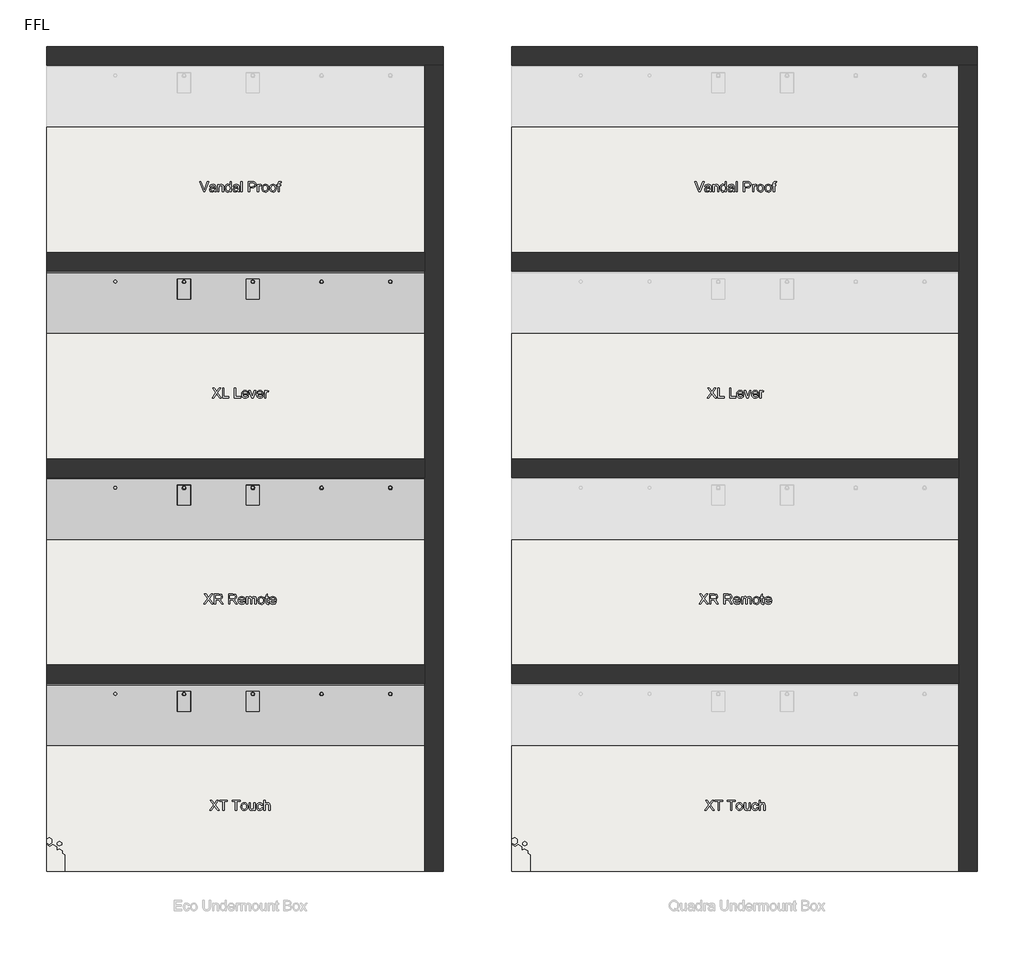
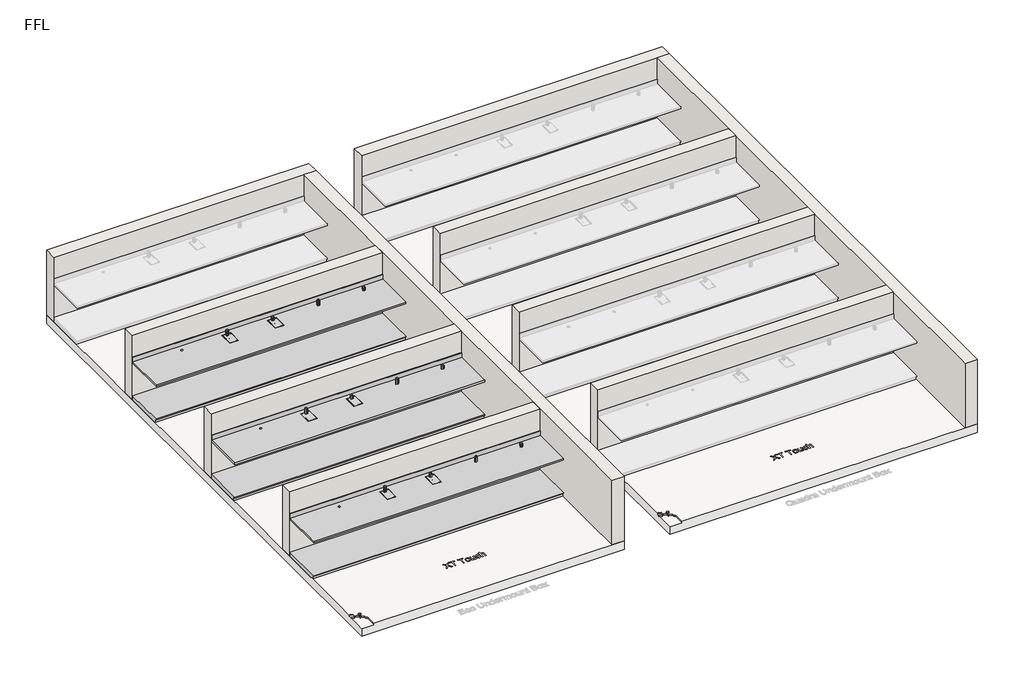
# One storey, part 1 of 5: 12 flow terminals, 10 walls, 6 furniture elements, 2 slabs.
"""IFC4 building model written with IfcOpenShell, lengths in millimetres."""

from ifc_helpers import new_model, si_unit, frame, origin, origin_with_axes, place, context, project, spatial, polyline, circle_curve, outline, extrude, faceted_brep, transform, mapped, element, save
from ifc_brep_helpers import plane_surface, revolved_surface, advanced_brep
from components import brushed_582ad824, chrome_7b1b1f62, chrome_988dec97, chrome_73782d16, generic_plinth_900mm_f33d2354

model = new_model("IFC4")

# Units and contexts
model_context = context("Model", 3, world=origin())
ifc_project = project(units=[si_unit("LENGTHUNIT", "METRE", prefix="MILLI")], contexts=[model_context])

# Site, building, storey
site = spatial("IfcSite", under=ifc_project)
building = spatial("IfcBuilding", under=site)
storey = spatial("IfcBuildingStorey", under=building, Name="FFL", Elevation=0.0)

# Flow terminals
placement = place(None, origin())
brushed_shape = brushed_582ad824(model_context)
element("IfcFlowTerminal", 1, ObjectType="z_PlumFixt_Billi_70mm Riser  : Brushed", at=placement, inside=storey, context=model_context, shape_type="MappedRepresentation", body=[
    mapped(brushed_shape, transform((12529.2647071, 10711.9893304, 900.0), x_axis=(1.0, 0.0, 0.0), y_axis=(0.0, 1.0, 0.0), z_axis=(0.0, 0.0, 1.0))),
])
element("IfcFlowTerminal", 2, ObjectType="z_PlumFixt_Billi_70mm Riser  : Brushed", at=placement, inside=storey, context=model_context, shape_type="MappedRepresentation", body=[
    mapped(brushed_shape, transform((12529.2647071, 4711.9893304, 900.0), x_axis=(1.0, 0.0, 0.0), y_axis=(0.0, 1.0, 0.0), z_axis=(0.0, 0.0, 1.0))),
])
element("IfcFlowTerminal", 3, ObjectType="z_PlumFixt_Billi_70mm Riser  : Chrome", at=placement, inside=storey, context=model_context, shape_type="MappedRepresentation", body=[
    mapped(brushed_shape, transform((12529.2647071, 7711.9893304, 900.0), x_axis=(1.0, 0.0, 0.0), y_axis=(0.0, 1.0, 0.0), z_axis=(0.0, 0.0, 1.0))),
])
chrome_shape = chrome_7b1b1f62(model_context)
element("IfcFlowTerminal", 4, ObjectType="z_PlumFixt_Billi_120mm Riser : Chrome", at=placement, inside=storey, context=model_context, shape_type="MappedRepresentation", body=[
    mapped(chrome_shape, transform((11529.2647071, 10711.9893304, 900.0), x_axis=(1.0, 0.0, 0.0), y_axis=(0.0, 1.0, 0.0), z_axis=(0.0, 0.0, 1.0))),
])
element("IfcFlowTerminal", 5, ObjectType="z_PlumFixt_Billi_120mm Riser : Chrome", at=placement, inside=storey, context=model_context, shape_type="MappedRepresentation", body=[
    mapped(chrome_shape, transform((11529.2647071, 7711.9893304, 900.0), x_axis=(1.0, 0.0, 0.0), y_axis=(0.0, 1.0, 0.0), z_axis=(0.0, 0.0, 1.0))),
])
element("IfcFlowTerminal", 6, ObjectType="z_PlumFixt_Billi_120mm Riser : Chrome", at=placement, inside=storey, context=model_context, shape_type="MappedRepresentation", body=[
    mapped(chrome_shape, transform((11529.2647071, 4711.9893304, 900.0), x_axis=(1.0, 0.0, 0.0), y_axis=(0.0, 1.0, 0.0), z_axis=(0.0, 0.0, 1.0))),
])
chrome_2_shape = chrome_988dec97(model_context)
element("IfcFlowTerminal", 7, ObjectType="z_PlumFixt_Billi_Font and 70mm Riser : Chrome", at=placement, inside=storey, context=model_context, shape_type="MappedRepresentation", body=[
    mapped(chrome_2_shape, transform((10529.2647071, 7603.3988696, 900.0), x_axis=(1.0, 0.0, 0.0), y_axis=(0.0, 1.0, 0.0), z_axis=(0.0, 0.0, 1.0))),
])
chrome_3_shape = chrome_73782d16(model_context)
element("IfcFlowTerminal", 8, ObjectType="z_PlumFixt_Billi_Font and 120mm Riser : Chrome", at=placement, inside=storey, context=model_context, shape_type="MappedRepresentation", body=[
    mapped(chrome_3_shape, transform((9529.2647071, 7603.3988696, 900.0), x_axis=(1.0, 0.0, 0.0), y_axis=(0.0, 1.0, 0.0), z_axis=(0.0, 0.0, 1.0))),
])
element("IfcFlowTerminal", 9, ObjectType="z_PlumFixt_Billi_Font and 70mm Riser : Matte Black", at=placement, inside=storey, context=model_context, shape_type="MappedRepresentation", body=[
    mapped(chrome_2_shape, transform((10529.2647071, 10603.3988696, 900.0), x_axis=(1.0, 0.0, 0.0), y_axis=(0.0, 1.0, 0.0), z_axis=(0.0, 0.0, 1.0))),
])
element("IfcFlowTerminal", 10, ObjectType="z_PlumFixt_Billi_Font and 70mm Riser : Matte Black", at=placement, inside=storey, context=model_context, shape_type="MappedRepresentation", body=[
    mapped(chrome_2_shape, transform((10529.2647071, 4603.3988696, 900.0), x_axis=(1.0, 0.0, 0.0), y_axis=(0.0, 1.0, 0.0), z_axis=(0.0, 0.0, 1.0))),
])
element("IfcFlowTerminal", 11, ObjectType="z_PlumFixt_Billi_Font and 120mm Riser : Matte White", at=placement, inside=storey, context=model_context, shape_type="MappedRepresentation", body=[
    mapped(chrome_3_shape, transform((9529.2647071, 10603.3988696, 900.0), x_axis=(1.0, 0.0, 0.0), y_axis=(0.0, 1.0, 0.0), z_axis=(0.0, 0.0, 1.0))),
])
element("IfcFlowTerminal", 12, ObjectType="z_PlumFixt_Billi_Font and 120mm Riser : Matte White", at=placement, inside=storey, context=model_context, shape_type="MappedRepresentation", body=[
    mapped(chrome_3_shape, transform((9529.2647071, 4603.3988696, 900.0), x_axis=(1.0, 0.0, 0.0), y_axis=(0.0, 1.0, 0.0), z_axis=(0.0, 0.0, 1.0))),
])

# Furniture
element("IfcFurniture", 13, ObjectType="Counter Top : 900mm Depth", at=placement, inside=storey, context=model_context, shape_type="AdvancedBrep", body=[
    advanced_brep(
    [(7530.2647071, 9948.2393304, 900.0), (13030.2647071, 9948.2393304, 900.0), (13030.2647071, 10829.1893304, 900.0), (7530.2647071, 10829.1893304, 900.0), (8530.2647071, 10718.2393304, 900.0), (8530.2647071, 10678.2393304, 900.0), (9625.7647071, 10444.1488696, 900.0), (9434.7647071, 10444.1488696, 900.0), (9434.7647071, 10735.1488696, 900.0), (9625.7647071, 10735.1488696, 900.0), (10625.7647071, 10444.1488696, 900.0), (10434.7647071, 10444.1488696, 900.0), (10434.7647071, 10735.1488696, 900.0), (10625.7647071, 10735.1488696, 900.0), (11530.2647071, 10718.2393304, 900.0), (11530.2647071, 10678.2393304, 900.0), (12530.2647071, 10718.2393304, 900.0), (12530.2647071, 10678.2393304, 900.0), (13030.2647071, 10848.2393304, 860.0), (13030.2647071, 9948.2393304, 860.0), (7530.2647071, 9948.2393304, 860.0), (7530.2647071, 10848.2393304, 860.0), (8530.2647071, 10678.2393304, 860.0), (8530.2647071, 10718.2393304, 860.0), (9443.2647071, 10452.6488696, 860.0), (9617.2647071, 10452.6488696, 860.0), (9617.2647071, 10726.6488696, 860.0), (9443.2647071, 10726.6488696, 860.0), (10443.2647071, 10452.6488696, 860.0), (10617.2647071, 10452.6488696, 860.0), (10617.2647071, 10726.6488696, 860.0), (10443.2647071, 10726.6488696, 860.0), (11530.2647071, 10678.2393304, 860.0), (11530.2647071, 10718.2393304, 860.0), (12530.2647071, 10678.2393304, 860.0), (12530.2647071, 10718.2393304, 860.0), (7530.2647071, 10848.2393304, 1001.6), (13030.2647071, 10848.2393304, 1001.6), (7530.2647071, 10829.1893304, 1001.6), (13030.2647071, 10829.1893304, 1001.6), (9625.7647071, 10444.1488696, 894.5), (9434.7647071, 10444.1488696, 894.5), (9443.2647071, 10452.6488696, 894.5), (9617.2647071, 10452.6488696, 894.5), (9625.7647071, 10735.1488696, 894.5), (9617.2647071, 10726.6488696, 894.5), (9434.7647071, 10735.1488696, 894.5), (9443.2647071, 10726.6488696, 894.5), (10625.7647071, 10444.1488696, 894.5), (10434.7647071, 10444.1488696, 894.5), (10443.2647071, 10452.6488696, 894.5), (10617.2647071, 10452.6488696, 894.5), (10625.7647071, 10735.1488696, 894.5), (10617.2647071, 10726.6488696, 894.5), (10434.7647071, 10735.1488696, 894.5), (10443.2647071, 10726.6488696, 894.5)],
    [
        (0, 1),
        (1, 2),
        (2, 3),
        (3, 0),
        (4, 5, circle_curve(frame((8530.2647071, 10698.2393304, 900.0), z_axis=(0.0, 0.0, -1.0), x_axis=(0.0, 1.0, 0.0)), 20.0)),
        (5, 4, circle_curve(frame((8530.2647071, 10698.2393304, 900.0), z_axis=(0.0, 0.0, -1.0), x_axis=(0.0, 1.0, 0.0)), 20.0)),
        (6, 7),
        (7, 8),
        (8, 9),
        (9, 6),
        (10, 11),
        (11, 12),
        (12, 13),
        (13, 10),
        (14, 15, circle_curve(frame((11530.2647071, 10698.2393304, 900.0), z_axis=(0.0, 0.0, -1.0), x_axis=(0.0, 1.0, 0.0)), 20.0)),
        (15, 14, circle_curve(frame((11530.2647071, 10698.2393304, 900.0), z_axis=(0.0, 0.0, -1.0), x_axis=(0.0, 1.0, 0.0)), 20.0)),
        (16, 17, circle_curve(frame((12530.2647071, 10698.2393304, 900.0), z_axis=(0.0, 0.0, -1.0), x_axis=(0.0, 1.0, 0.0)), 20.0)),
        (17, 16, circle_curve(frame((12530.2647071, 10698.2393304, 900.0), z_axis=(0.0, 0.0, -1.0), x_axis=(0.0, 1.0, 0.0)), 20.0)),
        (18, 19),
        (19, 20),
        (20, 21),
        (21, 18),
        (22, 23, circle_curve(frame((8530.2647071, 10698.2393304, 860.0), z_axis=(0.0, 0.0, 1.0), x_axis=(0.0, 1.0, 0.0)), 20.0)),
        (23, 22, circle_curve(frame((8530.2647071, 10698.2393304, 860.0), z_axis=(0.0, 0.0, 1.0), x_axis=(0.0, 1.0, 0.0)), 20.0)),
        (24, 25),
        (25, 26),
        (26, 27),
        (27, 24),
        (28, 29),
        (29, 30),
        (30, 31),
        (31, 28),
        (32, 33, circle_curve(frame((11530.2647071, 10698.2393304, 860.0), z_axis=(0.0, 0.0, 1.0), x_axis=(0.0, 1.0, 0.0)), 20.0)),
        (33, 32, circle_curve(frame((11530.2647071, 10698.2393304, 860.0), z_axis=(0.0, 0.0, 1.0), x_axis=(0.0, 1.0, 0.0)), 20.0)),
        (34, 35, circle_curve(frame((12530.2647071, 10698.2393304, 860.0), z_axis=(0.0, 0.0, 1.0), x_axis=(0.0, 1.0, 0.0)), 20.0)),
        (35, 34, circle_curve(frame((12530.2647071, 10698.2393304, 860.0), z_axis=(0.0, 0.0, 1.0), x_axis=(0.0, 1.0, 0.0)), 20.0)),
        (21, 36),
        (36, 37),
        (37, 18),
        (3, 38),
        (38, 36),
        (20, 0),
        (19, 1),
        (37, 39),
        (39, 2),
        (38, 39),
        (22, 5),
        (4, 23),
        (6, 40),
        (40, 41),
        (41, 7),
        (42, 43),
        (43, 25),
        (24, 42),
        (9, 44),
        (44, 40),
        (43, 45),
        (45, 26),
        (8, 46),
        (46, 44),
        (45, 47),
        (47, 27),
        (41, 46),
        (47, 42),
        (10, 48),
        (48, 49),
        (49, 11),
        (50, 51),
        (51, 29),
        (28, 50),
        (13, 52),
        (52, 48),
        (51, 53),
        (53, 30),
        (12, 54),
        (54, 52),
        (53, 55),
        (55, 31),
        (49, 54),
        (55, 50),
        (32, 15),
        (14, 33),
        (34, 17),
        (16, 35),
    ],
    [
        plane_surface(frame((7530.2647071, 10848.2393304, 900.0), z_axis=(0.0, 0.0, 1.0), x_axis=(-1.0, 0.0, 0.0))),
        plane_surface(frame((7530.2647071, 10848.2393304, 860.0), z_axis=(0.0, 0.0, -1.0), x_axis=(1.0, 0.0, 0.0))),
        plane_surface(frame((13030.2647071, 10848.2393304, 900.0), z_axis=(0.0, 1.0, 0.0), x_axis=(0.0, 0.0, -1.0))),
        plane_surface(frame((7530.2647071, 10848.2393304, 900.0), z_axis=(-1.0, 0.0, 0.0), x_axis=(0.0, 0.0, -1.0))),
        plane_surface(frame((7530.2647071, 9948.2393304, 900.0), z_axis=(0.0, -1.0, 0.0), x_axis=(0.0, 0.0, -1.0))),
        plane_surface(frame((13030.2647071, 9948.2393304, 900.0), z_axis=(1.0, 0.0, 0.0), x_axis=(0.0, 0.0, -1.0))),
        plane_surface(frame((7530.2647071, 10848.2393304, 1001.6), z_axis=(0.0, 0.0, 1.0), x_axis=(0.0, -1.0, 0.0))),
        plane_surface(frame((7530.2647071, 10829.1893304, 1001.6), z_axis=(0.0, -1.0, 0.0), x_axis=(0.0, 0.0, -1.0))),
        revolved_surface(polyline([(8530.2647071, 10718.2393304, 900.0), (8530.2647071, 10718.2393304, 860.0)]), (8530.2647071, 10698.2393304, 800.0), (0.0, 0.0, 1.0)),
        plane_surface(frame((9434.7647071, 10444.1488696, 894.5), z_axis=(0.0, 1.0, 0.0), x_axis=(1.0, 0.0, 0.0))),
        plane_surface(frame((9443.2647071, 10452.6488696, 800.0), z_axis=(0.0, 1.0, 0.0), x_axis=(1.0, 0.0, 0.0))),
        plane_surface(frame((9625.7647071, 10444.1488696, 894.5), z_axis=(-1.0, 0.0, 0.0), x_axis=(0.0, 1.0, 0.0))),
        plane_surface(frame((9617.2647071, 10452.6488696, 800.0), z_axis=(-1.0, 0.0, 0.0), x_axis=(0.0, 1.0, 0.0))),
        plane_surface(frame((9625.7647071, 10735.1488696, 894.5), z_axis=(0.0, -1.0, 0.0), x_axis=(-1.0, 0.0, 0.0))),
        plane_surface(frame((9617.2647071, 10726.6488696, 800.0), z_axis=(0.0, -1.0, 0.0), x_axis=(-1.0, 0.0, 0.0))),
        plane_surface(frame((9434.7647071, 10735.1488696, 894.5), z_axis=(1.0, 0.0, 0.0), x_axis=(0.0, -1.0, 0.0))),
        plane_surface(frame((9443.2647071, 10726.6488696, 800.0), z_axis=(1.0, 0.0, 0.0), x_axis=(0.0, -1.0, 0.0))),
        plane_surface(frame((9443.2647071, 10726.6488696, 894.5), z_axis=(0.0, 0.0, 1.0), x_axis=(0.0, -1.0, 0.0))),
        plane_surface(frame((10434.7647071, 10444.1488696, 894.5), z_axis=(0.0, 1.0, 0.0), x_axis=(1.0, 0.0, 0.0))),
        plane_surface(frame((10443.2647071, 10452.6488696, 800.0), z_axis=(0.0, 1.0, 0.0), x_axis=(1.0, 0.0, 0.0))),
        plane_surface(frame((10625.7647071, 10444.1488696, 894.5), z_axis=(-1.0, 0.0, 0.0), x_axis=(0.0, 1.0, 0.0))),
        plane_surface(frame((10617.2647071, 10452.6488696, 800.0), z_axis=(-1.0, 0.0, 0.0), x_axis=(0.0, 1.0, 0.0))),
        plane_surface(frame((10625.7647071, 10735.1488696, 894.5), z_axis=(0.0, -1.0, 0.0), x_axis=(-1.0, 0.0, 0.0))),
        plane_surface(frame((10617.2647071, 10726.6488696, 800.0), z_axis=(0.0, -1.0, 0.0), x_axis=(-1.0, 0.0, 0.0))),
        plane_surface(frame((10434.7647071, 10735.1488696, 894.5), z_axis=(1.0, 0.0, 0.0), x_axis=(0.0, -1.0, 0.0))),
        plane_surface(frame((10443.2647071, 10726.6488696, 800.0), z_axis=(1.0, 0.0, 0.0), x_axis=(0.0, -1.0, 0.0))),
        plane_surface(frame((10443.2647071, 10726.6488696, 894.5), z_axis=(0.0, 0.0, 1.0), x_axis=(0.0, -1.0, 0.0))),
        revolved_surface(polyline([(11530.2647071, 10718.2393304, 900.0), (11530.2647071, 10718.2393304, 860.0)]), (11530.2647071, 10698.2393304, 800.0), (0.0, 0.0, 1.0)),
        revolved_surface(polyline([(12530.2647071, 10718.2393304, 900.0), (12530.2647071, 10718.2393304, 860.0)]), (12530.2647071, 10698.2393304, 800.0), (0.0, 0.0, 1.0)),
    ],
    [
        (0, [[1, 2, 3, 4], [5, 6], [7, 8, 9, 10], [11, 12, 13, 14], [15, 16], [17, 18]]),
        (1, [[19, 20, 21, 22], [23, 24], [25, 26, 27, 28], [29, 30, 31, 32], [33, 34], [35, 36]]),
        (2, [[-22, 37, 38, 39]]),
        (3, [[-4, 40, 41, -37, -21, 42]]),
        (4, [[-1, -42, -20, 43]]),
        (5, [[-2, -43, -19, -39, 44, 45]]),
        (6, [[-38, -41, 46, -44]]),
        (7, [[-3, -45, -46, -40]]),
        (8, [[47, -5, 48, -23]]),
        (8, [[-47, -24, -48, -6]]),
        (9, [[49, 50, 51, -7]]),
        (10, [[52, 53, -25, 54]]),
        (11, [[-49, -10, 55, 56]]),
        (12, [[57, 58, -26, -53]]),
        (13, [[-55, -9, 59, 60]]),
        (14, [[61, 62, -27, -58]]),
        (15, [[-51, 63, -59, -8]]),
        (16, [[64, -54, -28, -62]]),
        (17, [[-50, -56, -60, -63], [-52, -64, -61, -57]]),
        (18, [[65, 66, 67, -11]]),
        (19, [[68, 69, -29, 70]]),
        (20, [[-65, -14, 71, 72]]),
        (21, [[73, 74, -30, -69]]),
        (22, [[-71, -13, 75, 76]]),
        (23, [[77, 78, -31, -74]]),
        (24, [[-67, 79, -75, -12]]),
        (25, [[80, -70, -32, -78]]),
        (26, [[-66, -72, -76, -79], [-68, -80, -77, -73]]),
        (27, [[81, -15, 82, -33]]),
        (27, [[-81, -34, -82, -16]]),
        (28, [[83, -17, 84, -35]]),
        (28, [[-83, -36, -84, -18]]),
    ],
),
])
element("IfcFurniture", 14, ObjectType="Counter Top : 900mm Depth", at=placement, inside=storey, context=model_context, shape_type="AdvancedBrep", body=[
    advanced_brep(
    [(7530.2647071, 6948.2393304, 900.0), (13030.2647071, 6948.2393304, 900.0), (13030.2647071, 7829.1893304, 900.0), (7530.2647071, 7829.1893304, 900.0), (12530.2647071, 7718.2393304, 900.0), (12530.2647071, 7678.2393304, 900.0), (11530.2647071, 7718.2393304, 900.0), (11530.2647071, 7678.2393304, 900.0), (10625.7647071, 7444.1488696, 900.0), (10434.7647071, 7444.1488696, 900.0), (10434.7647071, 7735.1488696, 900.0), (10625.7647071, 7735.1488696, 900.0), (9625.7647071, 7444.1488696, 900.0), (9434.7647071, 7444.1488696, 900.0), (9434.7647071, 7735.1488696, 900.0), (9625.7647071, 7735.1488696, 900.0), (8530.2647071, 7718.2393304, 900.0), (8530.2647071, 7678.2393304, 900.0), (13030.2647071, 7848.2393304, 860.0), (13030.2647071, 6948.2393304, 860.0), (7530.2647071, 6948.2393304, 860.0), (7530.2647071, 7848.2393304, 860.0), (12530.2647071, 7678.2393304, 860.0), (12530.2647071, 7718.2393304, 860.0), (11530.2647071, 7678.2393304, 860.0), (11530.2647071, 7718.2393304, 860.0), (10443.2647071, 7452.6488696, 860.0), (10617.2647071, 7452.6488696, 860.0), (10617.2647071, 7726.6488696, 860.0), (10443.2647071, 7726.6488696, 860.0), (9443.2647071, 7452.6488696, 860.0), (9617.2647071, 7452.6488696, 860.0), (9617.2647071, 7726.6488696, 860.0), (9443.2647071, 7726.6488696, 860.0), (8530.2647071, 7678.2393304, 860.0), (8530.2647071, 7718.2393304, 860.0), (7530.2647071, 7848.2393304, 1001.6), (13030.2647071, 7848.2393304, 1001.6), (7530.2647071, 7829.1893304, 1001.6), (13030.2647071, 7829.1893304, 1001.6), (10625.7647071, 7444.1488696, 894.5), (10434.7647071, 7444.1488696, 894.5), (10443.2647071, 7452.6488696, 894.5), (10617.2647071, 7452.6488696, 894.5), (10625.7647071, 7735.1488696, 894.5), (10617.2647071, 7726.6488696, 894.5), (10434.7647071, 7735.1488696, 894.5), (10443.2647071, 7726.6488696, 894.5), (9625.7647071, 7444.1488696, 894.5), (9434.7647071, 7444.1488696, 894.5), (9443.2647071, 7452.6488696, 894.5), (9617.2647071, 7452.6488696, 894.5), (9625.7647071, 7735.1488696, 894.5), (9617.2647071, 7726.6488696, 894.5), (9434.7647071, 7735.1488696, 894.5), (9443.2647071, 7726.6488696, 894.5)],
    [
        (0, 1),
        (1, 2),
        (2, 3),
        (3, 0),
        (4, 5, circle_curve(frame((12530.2647071, 7698.2393304, 900.0), z_axis=(0.0, 0.0, -1.0), x_axis=(0.0, 1.0, 0.0)), 20.0)),
        (5, 4, circle_curve(frame((12530.2647071, 7698.2393304, 900.0), z_axis=(0.0, 0.0, -1.0), x_axis=(0.0, 1.0, 0.0)), 20.0)),
        (6, 7, circle_curve(frame((11530.2647071, 7698.2393304, 900.0), z_axis=(0.0, 0.0, -1.0), x_axis=(0.0, 1.0, 0.0)), 20.0)),
        (7, 6, circle_curve(frame((11530.2647071, 7698.2393304, 900.0), z_axis=(0.0, 0.0, -1.0), x_axis=(0.0, 1.0, 0.0)), 20.0)),
        (8, 9),
        (9, 10),
        (10, 11),
        (11, 8),
        (12, 13),
        (13, 14),
        (14, 15),
        (15, 12),
        (16, 17, circle_curve(frame((8530.2647071, 7698.2393304, 900.0), z_axis=(0.0, 0.0, -1.0), x_axis=(0.0, 1.0, 0.0)), 20.0)),
        (17, 16, circle_curve(frame((8530.2647071, 7698.2393304, 900.0), z_axis=(0.0, 0.0, -1.0), x_axis=(0.0, 1.0, 0.0)), 20.0)),
        (18, 19),
        (19, 20),
        (20, 21),
        (21, 18),
        (22, 23, circle_curve(frame((12530.2647071, 7698.2393304, 860.0), z_axis=(0.0, 0.0, 1.0), x_axis=(0.0, 1.0, 0.0)), 20.0)),
        (23, 22, circle_curve(frame((12530.2647071, 7698.2393304, 860.0), z_axis=(0.0, 0.0, 1.0), x_axis=(0.0, 1.0, 0.0)), 20.0)),
        (24, 25, circle_curve(frame((11530.2647071, 7698.2393304, 860.0), z_axis=(0.0, 0.0, 1.0), x_axis=(0.0, 1.0, 0.0)), 20.0)),
        (25, 24, circle_curve(frame((11530.2647071, 7698.2393304, 860.0), z_axis=(0.0, 0.0, 1.0), x_axis=(0.0, 1.0, 0.0)), 20.0)),
        (26, 27),
        (27, 28),
        (28, 29),
        (29, 26),
        (30, 31),
        (31, 32),
        (32, 33),
        (33, 30),
        (34, 35, circle_curve(frame((8530.2647071, 7698.2393304, 860.0), z_axis=(0.0, 0.0, 1.0), x_axis=(0.0, 1.0, 0.0)), 20.0)),
        (35, 34, circle_curve(frame((8530.2647071, 7698.2393304, 860.0), z_axis=(0.0, 0.0, 1.0), x_axis=(0.0, 1.0, 0.0)), 20.0)),
        (21, 36),
        (36, 37),
        (37, 18),
        (3, 38),
        (38, 36),
        (20, 0),
        (19, 1),
        (37, 39),
        (39, 2),
        (38, 39),
        (22, 5),
        (4, 23),
        (24, 7),
        (6, 25),
        (8, 40),
        (40, 41),
        (41, 9),
        (42, 43),
        (43, 27),
        (26, 42),
        (11, 44),
        (44, 40),
        (43, 45),
        (45, 28),
        (10, 46),
        (46, 44),
        (45, 47),
        (47, 29),
        (41, 46),
        (47, 42),
        (12, 48),
        (48, 49),
        (49, 13),
        (50, 51),
        (51, 31),
        (30, 50),
        (15, 52),
        (52, 48),
        (51, 53),
        (53, 32),
        (14, 54),
        (54, 52),
        (53, 55),
        (55, 33),
        (49, 54),
        (55, 50),
        (34, 17),
        (16, 35),
    ],
    [
        plane_surface(frame((7530.2647071, 7848.2393304, 900.0), z_axis=(0.0, 0.0, 1.0), x_axis=(-1.0, 0.0, 0.0))),
        plane_surface(frame((7530.2647071, 7848.2393304, 860.0), z_axis=(0.0, 0.0, -1.0), x_axis=(1.0, 0.0, 0.0))),
        plane_surface(frame((13030.2647071, 7848.2393304, 900.0), z_axis=(0.0, 1.0, 0.0), x_axis=(0.0, 0.0, -1.0))),
        plane_surface(frame((7530.2647071, 7848.2393304, 900.0), z_axis=(-1.0, 0.0, 0.0), x_axis=(0.0, 0.0, -1.0))),
        plane_surface(frame((7530.2647071, 6948.2393304, 900.0), z_axis=(0.0, -1.0, 0.0), x_axis=(0.0, 0.0, -1.0))),
        plane_surface(frame((13030.2647071, 6948.2393304, 900.0), z_axis=(1.0, 0.0, 0.0), x_axis=(0.0, 0.0, -1.0))),
        plane_surface(frame((7530.2647071, 7848.2393304, 1001.6), z_axis=(0.0, 0.0, 1.0), x_axis=(0.0, -1.0, 0.0))),
        plane_surface(frame((7530.2647071, 7829.1893304, 1001.6), z_axis=(0.0, -1.0, 0.0), x_axis=(0.0, 0.0, -1.0))),
        revolved_surface(polyline([(12530.2647071, 7718.2393304, 900.0), (12530.2647071, 7718.2393304, 860.0)]), (12530.2647071, 7698.2393304, 800.0), (0.0, 0.0, 1.0)),
        revolved_surface(polyline([(11530.2647071, 7718.2393304, 900.0), (11530.2647071, 7718.2393304, 860.0)]), (11530.2647071, 7698.2393304, 800.0), (0.0, 0.0, 1.0)),
        plane_surface(frame((10434.7647071, 7444.1488696, 894.5), z_axis=(0.0, 1.0, 0.0), x_axis=(1.0, 0.0, 0.0))),
        plane_surface(frame((10443.2647071, 7452.6488696, 800.0), z_axis=(0.0, 1.0, 0.0), x_axis=(1.0, 0.0, 0.0))),
        plane_surface(frame((10625.7647071, 7444.1488696, 894.5), z_axis=(-1.0, 0.0, 0.0), x_axis=(0.0, 1.0, 0.0))),
        plane_surface(frame((10617.2647071, 7452.6488696, 800.0), z_axis=(-1.0, 0.0, 0.0), x_axis=(0.0, 1.0, 0.0))),
        plane_surface(frame((10625.7647071, 7735.1488696, 894.5), z_axis=(0.0, -1.0, 0.0), x_axis=(-1.0, 0.0, 0.0))),
        plane_surface(frame((10617.2647071, 7726.6488696, 800.0), z_axis=(0.0, -1.0, 0.0), x_axis=(-1.0, 0.0, 0.0))),
        plane_surface(frame((10434.7647071, 7735.1488696, 894.5), z_axis=(1.0, 0.0, 0.0), x_axis=(0.0, -1.0, 0.0))),
        plane_surface(frame((10443.2647071, 7726.6488696, 800.0), z_axis=(1.0, 0.0, 0.0), x_axis=(0.0, -1.0, 0.0))),
        plane_surface(frame((10443.2647071, 7726.6488696, 894.5), z_axis=(0.0, 0.0, 1.0), x_axis=(0.0, -1.0, 0.0))),
        plane_surface(frame((9434.7647071, 7444.1488696, 894.5), z_axis=(0.0, 1.0, 0.0), x_axis=(1.0, 0.0, 0.0))),
        plane_surface(frame((9443.2647071, 7452.6488696, 800.0), z_axis=(0.0, 1.0, 0.0), x_axis=(1.0, 0.0, 0.0))),
        plane_surface(frame((9625.7647071, 7444.1488696, 894.5), z_axis=(-1.0, 0.0, 0.0), x_axis=(0.0, 1.0, 0.0))),
        plane_surface(frame((9617.2647071, 7452.6488696, 800.0), z_axis=(-1.0, 0.0, 0.0), x_axis=(0.0, 1.0, 0.0))),
        plane_surface(frame((9625.7647071, 7735.1488696, 894.5), z_axis=(0.0, -1.0, 0.0), x_axis=(-1.0, 0.0, 0.0))),
        plane_surface(frame((9617.2647071, 7726.6488696, 800.0), z_axis=(0.0, -1.0, 0.0), x_axis=(-1.0, 0.0, 0.0))),
        plane_surface(frame((9434.7647071, 7735.1488696, 894.5), z_axis=(1.0, 0.0, 0.0), x_axis=(0.0, -1.0, 0.0))),
        plane_surface(frame((9443.2647071, 7726.6488696, 800.0), z_axis=(1.0, 0.0, 0.0), x_axis=(0.0, -1.0, 0.0))),
        plane_surface(frame((9443.2647071, 7726.6488696, 894.5), z_axis=(0.0, 0.0, 1.0), x_axis=(0.0, -1.0, 0.0))),
        revolved_surface(polyline([(8530.2647071, 7718.2393304, 900.0), (8530.2647071, 7718.2393304, 860.0)]), (8530.2647071, 7698.2393304, 800.0), (0.0, 0.0, 1.0)),
    ],
    [
        (0, [[1, 2, 3, 4], [5, 6], [7, 8], [9, 10, 11, 12], [13, 14, 15, 16], [17, 18]]),
        (1, [[19, 20, 21, 22], [23, 24], [25, 26], [27, 28, 29, 30], [31, 32, 33, 34], [35, 36]]),
        (2, [[-22, 37, 38, 39]]),
        (3, [[-4, 40, 41, -37, -21, 42]]),
        (4, [[-1, -42, -20, 43]]),
        (5, [[-2, -43, -19, -39, 44, 45]]),
        (6, [[-38, -41, 46, -44]]),
        (7, [[-3, -45, -46, -40]]),
        (8, [[47, -5, 48, -23]]),
        (8, [[-47, -24, -48, -6]]),
        (9, [[49, -7, 50, -25]]),
        (9, [[-49, -26, -50, -8]]),
        (10, [[51, 52, 53, -9]]),
        (11, [[54, 55, -27, 56]]),
        (12, [[-51, -12, 57, 58]]),
        (13, [[59, 60, -28, -55]]),
        (14, [[-57, -11, 61, 62]]),
        (15, [[63, 64, -29, -60]]),
        (16, [[-53, 65, -61, -10]]),
        (17, [[66, -56, -30, -64]]),
        (18, [[-52, -58, -62, -65], [-54, -66, -63, -59]]),
        (19, [[67, 68, 69, -13]]),
        (20, [[70, 71, -31, 72]]),
        (21, [[-67, -16, 73, 74]]),
        (22, [[75, 76, -32, -71]]),
        (23, [[-73, -15, 77, 78]]),
        (24, [[79, 80, -33, -76]]),
        (25, [[-69, 81, -77, -14]]),
        (26, [[82, -72, -34, -80]]),
        (27, [[-68, -74, -78, -81], [-70, -82, -79, -75]]),
        (28, [[83, -17, 84, -35]]),
        (28, [[-83, -36, -84, -18]]),
    ],
),
])
element("IfcFurniture", 15, ObjectType="Counter Top : 900mm Depth", at=placement, inside=storey, context=model_context, shape_type="AdvancedBrep", body=[
    advanced_brep(
    [(7530.2647071, 3948.2393304, 900.0), (13030.2647071, 3948.2393304, 900.0), (13030.2647071, 4829.1893304, 900.0), (7530.2647071, 4829.1893304, 900.0), (8530.2647071, 4718.2393304, 900.0), (8530.2647071, 4678.2393304, 900.0), (9625.7647071, 4444.1488696, 900.0), (9434.7647071, 4444.1488696, 900.0), (9434.7647071, 4735.1488696, 900.0), (9625.7647071, 4735.1488696, 900.0), (10625.7647071, 4444.1488696, 900.0), (10434.7647071, 4444.1488696, 900.0), (10434.7647071, 4735.1488696, 900.0), (10625.7647071, 4735.1488696, 900.0), (11530.2647071, 4718.2393304, 900.0), (11530.2647071, 4678.2393304, 900.0), (12530.2647071, 4718.2393304, 900.0), (12530.2647071, 4678.2393304, 900.0), (13030.2647071, 4848.2393304, 860.0), (13030.2647071, 3948.2393304, 860.0), (7530.2647071, 3948.2393304, 860.0), (7530.2647071, 4848.2393304, 860.0), (8530.2647071, 4678.2393304, 860.0), (8530.2647071, 4718.2393304, 860.0), (9443.2647071, 4452.6488696, 860.0), (9617.2647071, 4452.6488696, 860.0), (9617.2647071, 4726.6488696, 860.0), (9443.2647071, 4726.6488696, 860.0), (10443.2647071, 4452.6488696, 860.0), (10617.2647071, 4452.6488696, 860.0), (10617.2647071, 4726.6488696, 860.0), (10443.2647071, 4726.6488696, 860.0), (11530.2647071, 4678.2393304, 860.0), (11530.2647071, 4718.2393304, 860.0), (12530.2647071, 4678.2393304, 860.0), (12530.2647071, 4718.2393304, 860.0), (7530.2647071, 4848.2393304, 1001.6), (13030.2647071, 4848.2393304, 1001.6), (7530.2647071, 4829.1893304, 1001.6), (13030.2647071, 4829.1893304, 1001.6), (9443.2647071, 4452.6488696, 894.5), (9617.2647071, 4452.6488696, 894.5), (9625.7647071, 4444.1488696, 894.5), (9434.7647071, 4444.1488696, 894.5), (9617.2647071, 4726.6488696, 894.5), (9625.7647071, 4735.1488696, 894.5), (9443.2647071, 4726.6488696, 894.5), (9434.7647071, 4735.1488696, 894.5), (10443.2647071, 4452.6488696, 894.5), (10617.2647071, 4452.6488696, 894.5), (10625.7647071, 4444.1488696, 894.5), (10434.7647071, 4444.1488696, 894.5), (10617.2647071, 4726.6488696, 894.5), (10625.7647071, 4735.1488696, 894.5), (10443.2647071, 4726.6488696, 894.5), (10434.7647071, 4735.1488696, 894.5)],
    [
        (0, 1),
        (1, 2),
        (2, 3),
        (3, 0),
        (4, 5, circle_curve(frame((8530.2647071, 4698.2393304, 900.0), z_axis=(0.0, 0.0, -1.0), x_axis=(0.0, 1.0, 0.0)), 20.0)),
        (5, 4, circle_curve(frame((8530.2647071, 4698.2393304, 900.0), z_axis=(0.0, 0.0, -1.0), x_axis=(0.0, 1.0, 0.0)), 20.0)),
        (6, 7),
        (7, 8),
        (8, 9),
        (9, 6),
        (10, 11),
        (11, 12),
        (12, 13),
        (13, 10),
        (14, 15, circle_curve(frame((11530.2647071, 4698.2393304, 900.0), z_axis=(0.0, 0.0, -1.0), x_axis=(0.0, 1.0, 0.0)), 20.0)),
        (15, 14, circle_curve(frame((11530.2647071, 4698.2393304, 900.0), z_axis=(0.0, 0.0, -1.0), x_axis=(0.0, 1.0, 0.0)), 20.0)),
        (16, 17, circle_curve(frame((12530.2647071, 4698.2393304, 900.0), z_axis=(0.0, 0.0, -1.0), x_axis=(0.0, 1.0, 0.0)), 20.0)),
        (17, 16, circle_curve(frame((12530.2647071, 4698.2393304, 900.0), z_axis=(0.0, 0.0, -1.0), x_axis=(0.0, 1.0, 0.0)), 20.0)),
        (18, 19),
        (19, 20),
        (20, 21),
        (21, 18),
        (22, 23, circle_curve(frame((8530.2647071, 4698.2393304, 860.0), z_axis=(0.0, 0.0, 1.0), x_axis=(0.0, 1.0, 0.0)), 20.0)),
        (23, 22, circle_curve(frame((8530.2647071, 4698.2393304, 860.0), z_axis=(0.0, 0.0, 1.0), x_axis=(0.0, 1.0, 0.0)), 20.0)),
        (24, 25),
        (25, 26),
        (26, 27),
        (27, 24),
        (28, 29),
        (29, 30),
        (30, 31),
        (31, 28),
        (32, 33, circle_curve(frame((11530.2647071, 4698.2393304, 860.0), z_axis=(0.0, 0.0, 1.0), x_axis=(0.0, 1.0, 0.0)), 20.0)),
        (33, 32, circle_curve(frame((11530.2647071, 4698.2393304, 860.0), z_axis=(0.0, 0.0, 1.0), x_axis=(0.0, 1.0, 0.0)), 20.0)),
        (34, 35, circle_curve(frame((12530.2647071, 4698.2393304, 860.0), z_axis=(0.0, 0.0, 1.0), x_axis=(0.0, 1.0, 0.0)), 20.0)),
        (35, 34, circle_curve(frame((12530.2647071, 4698.2393304, 860.0), z_axis=(0.0, 0.0, 1.0), x_axis=(0.0, 1.0, 0.0)), 20.0)),
        (21, 36),
        (36, 37),
        (37, 18),
        (3, 38),
        (38, 36),
        (20, 0),
        (19, 1),
        (37, 39),
        (39, 2),
        (38, 39),
        (22, 5),
        (4, 23),
        (40, 41),
        (41, 25),
        (24, 40),
        (6, 42),
        (42, 43),
        (43, 7),
        (41, 44),
        (44, 26),
        (9, 45),
        (45, 42),
        (44, 46),
        (46, 27),
        (8, 47),
        (47, 45),
        (46, 40),
        (47, 43),
        (48, 49),
        (49, 29),
        (28, 48),
        (10, 50),
        (50, 51),
        (51, 11),
        (49, 52),
        (52, 30),
        (13, 53),
        (53, 50),
        (52, 54),
        (54, 31),
        (12, 55),
        (55, 53),
        (54, 48),
        (55, 51),
        (32, 15),
        (14, 33),
        (34, 17),
        (16, 35),
    ],
    [
        plane_surface(frame((7530.2647071, 4848.2393304, 900.0), z_axis=(0.0, 0.0, 1.0), x_axis=(-1.0, 0.0, 0.0))),
        plane_surface(frame((7530.2647071, 4848.2393304, 860.0), z_axis=(0.0, 0.0, -1.0), x_axis=(1.0, 0.0, 0.0))),
        plane_surface(frame((13030.2647071, 4848.2393304, 900.0), z_axis=(0.0, 1.0, 0.0), x_axis=(0.0, 0.0, -1.0))),
        plane_surface(frame((7530.2647071, 4848.2393304, 900.0), z_axis=(-1.0, 0.0, 0.0), x_axis=(0.0, 0.0, -1.0))),
        plane_surface(frame((7530.2647071, 3948.2393304, 900.0), z_axis=(0.0, -1.0, 0.0), x_axis=(0.0, 0.0, -1.0))),
        plane_surface(frame((13030.2647071, 3948.2393304, 900.0), z_axis=(1.0, 0.0, 0.0), x_axis=(0.0, 0.0, -1.0))),
        plane_surface(frame((7530.2647071, 4848.2393304, 1001.6), z_axis=(0.0, 0.0, 1.0), x_axis=(0.0, -1.0, 0.0))),
        plane_surface(frame((7530.2647071, 4829.1893304, 1001.6), z_axis=(0.0, -1.0, 0.0), x_axis=(0.0, 0.0, -1.0))),
        revolved_surface(polyline([(8530.2647071, 4718.2393304, 900.0), (8530.2647071, 4718.2393304, 860.0)]), (8530.2647071, 4698.2393304, 800.0), (0.0, 0.0, 1.0)),
        plane_surface(frame((9443.2647071, 4452.6488696, 800.0), z_axis=(0.0, 1.0, 0.0), x_axis=(1.0, 0.0, 0.0))),
        plane_surface(frame((9434.7647071, 4444.1488696, 894.5), z_axis=(0.0, 1.0, 0.0), x_axis=(1.0, 0.0, 0.0))),
        plane_surface(frame((9617.2647071, 4452.6488696, 800.0), z_axis=(-1.0, 0.0, 0.0), x_axis=(0.0, 1.0, 0.0))),
        plane_surface(frame((9625.7647071, 4444.1488696, 894.5), z_axis=(-1.0, 0.0, 0.0), x_axis=(0.0, 1.0, 0.0))),
        plane_surface(frame((9617.2647071, 4726.6488696, 800.0), z_axis=(0.0, -1.0, 0.0), x_axis=(-1.0, 0.0, 0.0))),
        plane_surface(frame((9625.7647071, 4735.1488696, 894.5), z_axis=(0.0, -1.0, 0.0), x_axis=(-1.0, 0.0, 0.0))),
        plane_surface(frame((9443.2647071, 4726.6488696, 800.0), z_axis=(1.0, 0.0, 0.0), x_axis=(0.0, -1.0, 0.0))),
        plane_surface(frame((9443.2647071, 4726.6488696, 894.5), z_axis=(0.0, 0.0, 1.0), x_axis=(0.0, -1.0, 0.0))),
        plane_surface(frame((9434.7647071, 4735.1488696, 894.5), z_axis=(1.0, 0.0, 0.0), x_axis=(0.0, -1.0, 0.0))),
        plane_surface(frame((10443.2647071, 4452.6488696, 800.0), z_axis=(0.0, 1.0, 0.0), x_axis=(1.0, 0.0, 0.0))),
        plane_surface(frame((10434.7647071, 4444.1488696, 894.5), z_axis=(0.0, 1.0, 0.0), x_axis=(1.0, 0.0, 0.0))),
        plane_surface(frame((10617.2647071, 4452.6488696, 800.0), z_axis=(-1.0, 0.0, 0.0), x_axis=(0.0, 1.0, 0.0))),
        plane_surface(frame((10625.7647071, 4444.1488696, 894.5), z_axis=(-1.0, 0.0, 0.0), x_axis=(0.0, 1.0, 0.0))),
        plane_surface(frame((10617.2647071, 4726.6488696, 800.0), z_axis=(0.0, -1.0, 0.0), x_axis=(-1.0, 0.0, 0.0))),
        plane_surface(frame((10625.7647071, 4735.1488696, 894.5), z_axis=(0.0, -1.0, 0.0), x_axis=(-1.0, 0.0, 0.0))),
        plane_surface(frame((10443.2647071, 4726.6488696, 800.0), z_axis=(1.0, 0.0, 0.0), x_axis=(0.0, -1.0, 0.0))),
        plane_surface(frame((10443.2647071, 4726.6488696, 894.5), z_axis=(0.0, 0.0, 1.0), x_axis=(0.0, -1.0, 0.0))),
        plane_surface(frame((10434.7647071, 4735.1488696, 894.5), z_axis=(1.0, 0.0, 0.0), x_axis=(0.0, -1.0, 0.0))),
        revolved_surface(polyline([(11530.2647071, 4718.2393304, 900.0), (11530.2647071, 4718.2393304, 860.0)]), (11530.2647071, 4698.2393304, 800.0), (0.0, 0.0, 1.0)),
        revolved_surface(polyline([(12530.2647071, 4718.2393304, 900.0), (12530.2647071, 4718.2393304, 860.0)]), (12530.2647071, 4698.2393304, 800.0), (0.0, 0.0, 1.0)),
    ],
    [
        (0, [[1, 2, 3, 4], [5, 6], [7, 8, 9, 10], [11, 12, 13, 14], [15, 16], [17, 18]]),
        (1, [[19, 20, 21, 22], [23, 24], [25, 26, 27, 28], [29, 30, 31, 32], [33, 34], [35, 36]]),
        (2, [[-22, 37, 38, 39]]),
        (3, [[-4, 40, 41, -37, -21, 42]]),
        (4, [[-1, -42, -20, 43]]),
        (5, [[-2, -43, -19, -39, 44, 45]]),
        (6, [[-38, -41, 46, -44]]),
        (7, [[-3, -45, -46, -40]]),
        (8, [[47, -5, 48, -23]]),
        (8, [[-47, -24, -48, -6]]),
        (9, [[49, 50, -25, 51]]),
        (10, [[52, 53, 54, -7]]),
        (11, [[55, 56, -26, -50]]),
        (12, [[-52, -10, 57, 58]]),
        (13, [[59, 60, -27, -56]]),
        (14, [[-57, -9, 61, 62]]),
        (15, [[63, -51, -28, -60]]),
        (16, [[-53, -58, -62, 64], [-49, -63, -59, -55]]),
        (17, [[-54, -64, -61, -8]]),
        (18, [[65, 66, -29, 67]]),
        (19, [[68, 69, 70, -11]]),
        (20, [[71, 72, -30, -66]]),
        (21, [[-68, -14, 73, 74]]),
        (22, [[75, 76, -31, -72]]),
        (23, [[-73, -13, 77, 78]]),
        (24, [[79, -67, -32, -76]]),
        (25, [[-69, -74, -78, 80], [-65, -79, -75, -71]]),
        (26, [[-70, -80, -77, -12]]),
        (27, [[81, -15, 82, -33]]),
        (27, [[-81, -34, -82, -16]]),
        (28, [[83, -17, 84, -35]]),
        (28, [[-83, -36, -84, -18]]),
    ],
),
])
generic_plinth_900mm_shape = generic_plinth_900mm_f33d2354(model_context)
element("IfcFurniture", 16, ObjectType="Generic Plinth : 900mm", at=placement, inside=storey, context=model_context, shape_type="MappedRepresentation", body=[
    mapped(generic_plinth_900mm_shape, transform((10261.5270022, 10848.2393304, 0.0), x_axis=(1.0, 0.0, 0.0), y_axis=(0.0, 1.0, 0.0), z_axis=(0.0, 0.0, 1.0))),
])
element("IfcFurniture", 17, ObjectType="Generic Plinth : 900mm", at=placement, inside=storey, context=model_context, shape_type="MappedRepresentation", body=[
    mapped(generic_plinth_900mm_shape, transform((10261.5270022, 7848.2393304, 0.0), x_axis=(1.0, 0.0, 0.0), y_axis=(0.0, 1.0, 0.0), z_axis=(0.0, 0.0, 1.0))),
])
element("IfcFurniture", 18, ObjectType="Generic Plinth : 900mm", at=placement, inside=storey, context=model_context, shape_type="MappedRepresentation", body=[
    mapped(generic_plinth_900mm_shape, transform((10261.5270022, 4848.2393304, 0.0), x_axis=(1.0, 0.0, 0.0), y_axis=(0.0, 1.0, 0.0), z_axis=(0.0, 0.0, 1.0))),
])

# Slabs
element("IfcSlab", 19, ObjectType="Generic 200mm", at=placement, inside=storey, context=model_context, shape_type="Brep", body=[
    faceted_brep([(13300.2647071, 14118.2393304, -200.0), (13300.2647071, 2118.2393304, -200.0), (7530.2647071, 2118.2393304, -200.0), (7530.2647071, 14118.2393304, -200.0), (13300.2647071, 2118.2393304, 0.0), (13300.2647071, 14118.2393304, 0.0), (7530.2647071, 14118.2393304, 0.0), (7530.2647071, 2588.2584174, 0.0), (7567.2776425, 2609.6278457, 0.0), (7613.6297976, 2582.8664165, 0.0), (7613.6297976, 2527.6947831, 0.0), (7567.2776425, 2500.933354, 0.0), (7530.2647071, 2522.3027822, 0.0), (7530.2647071, 2509.2845408, 0.0), (7577.2596249, 2482.1520124, 0.0), (7623.2641504, 2508.7127376, 0.0), (7682.4951549, 2474.5157012, 0.0), (7682.4951549, 2427.8774715, 0.0), (7711.7637949, 2444.7757287, 0.0), (7766.4128192, 2413.2240998, 0.0), (7766.4128192, 2374.1132559, 0.0), (7801.0538353, 2354.1132559, 0.0), (7801.0538353, 2118.2393304, 0.0), (7717.3840793, 2551.7417473, 0.0), (7748.1889566, 2533.9565431, 0.0), (7748.1889566, 2501.3487482, 0.0), (7717.3840793, 2483.563544, 0.0), (7686.579202, 2501.3487482, 0.0), (7686.579202, 2533.9565431, 0.0), (7801.0538353, 2118.2393304, -25.0), (7530.2647071, 2118.2393304, -25.0), (7530.2647071, 2509.295444, -25.0), (7530.2647071, 2522.3027822, -25.0), (7530.2647071, 2588.2584174, -25.0), (7801.0538353, 2354.1132559, -25.0), (7766.4128192, 2374.1132559, -25.0), (7766.4128192, 2413.2240998, -25.0), (7711.7637949, 2444.7757287, -25.0), (7682.4951549, 2427.8774715, -25.0), (7682.4951549, 2474.5157012, -25.0), (7623.2641504, 2508.7127376, -25.0), (7577.2596249, 2482.1520124, -25.0), (7613.6297976, 2582.8664165, -25.0), (7567.2776425, 2609.6278457, -25.0), (7567.2776425, 2500.933354, -25.0), (7613.6297976, 2527.6947831, -25.0), (7748.1889566, 2533.9565431, -25.0), (7717.3840793, 2551.7417473, -25.0), (7686.579202, 2533.9565431, -25.0), (7686.579202, 2501.3487482, -25.0), (7717.3840793, 2483.563544, -25.0), (7748.1889566, 2501.3487482, -25.0)], [[[0, 1, 2, 3]], [[4, 5, 6, 7, 8, 9, 10, 11, 12, 13, 14, 15, 16, 17, 18, 19, 20, 21, 22], [23, 24, 25, 26, 27, 28]], [[1, 0, 5, 4]], [[2, 1, 4, 22, 29, 30]], [[3, 2, 30, 31, 13, 12, 32, 33, 7, 6]], [[0, 3, 6, 5]], [[34, 35, 36, 37, 38, 39, 40, 41, 31, 30, 29]], [[42, 43, 33, 32, 44, 45]], [[46, 47, 48, 49, 50, 51]], [[34, 29, 22, 21]], [[35, 34, 21, 20]], [[36, 35, 20, 19]], [[37, 36, 19, 18]], [[38, 37, 18, 17]], [[39, 38, 17, 16]], [[40, 39, 16, 15]], [[41, 40, 15, 14]], [[31, 41, 14, 13]], [[43, 42, 9, 8]], [[33, 43, 8, 7]], [[44, 32, 12, 11]], [[45, 44, 11, 10]], [[42, 45, 10, 9]], [[47, 46, 24, 23]], [[48, 47, 23, 28]], [[49, 48, 28, 27]], [[50, 49, 27, 26]], [[51, 50, 26, 25]], [[46, 51, 25, 24]]]),
])
element("IfcSlab", 20, ObjectType="Generic 200mm", at=placement, inside=storey, context=model_context, shape_type="Brep", body=[
    faceted_brep([(21070.2647071, 14118.2393304, -200.0), (21070.2647071, 2118.2393304, -200.0), (14300.2647071, 2118.2393304, -200.0), (14300.2647071, 14118.2393304, -200.0), (21070.2647071, 2118.2393304, 0.0), (21070.2647071, 14118.2393304, 0.0), (14300.2647071, 14118.2393304, 0.0), (14300.2647071, 2588.2584174, 0.0), (14337.2776425, 2609.6278457, 0.0), (14383.6297976, 2582.8664165, 0.0), (14383.6297976, 2527.6947831, 0.0), (14337.2776425, 2500.933354, 0.0), (14300.2647071, 2522.3027822, 0.0), (14300.2647071, 2509.2845408, 0.0), (14347.2596249, 2482.1520124, 0.0), (14393.2641504, 2508.7127376, 0.0), (14452.4951549, 2474.5157012, 0.0), (14452.4951549, 2427.8774715, 0.0), (14481.7637949, 2444.7757287, 0.0), (14536.4128192, 2413.2240998, 0.0), (14536.4128192, 2374.1132559, 0.0), (14571.0538353, 2354.1132559, 0.0), (14571.0538353, 2118.2393304, 0.0), (14487.3840793, 2551.7417473, 0.0), (14518.1889566, 2533.9565431, 0.0), (14518.1889566, 2501.3487482, 0.0), (14487.3840793, 2483.563544, 0.0), (14456.579202, 2501.3487482, 0.0), (14456.579202, 2533.9565431, 0.0), (14571.0538353, 2118.2393304, -25.0), (14300.2647071, 2118.2393304, -25.0), (14300.2647071, 2509.295444, -25.0), (14300.2647071, 2522.3027822, -25.0), (14300.2647071, 2588.2584174, -25.0), (14571.0538353, 2354.1132559, -25.0), (14536.4128192, 2374.1132559, -25.0), (14536.4128192, 2413.2240998, -25.0), (14481.7637949, 2444.7757287, -25.0), (14452.4951549, 2427.8774715, -25.0), (14452.4951549, 2474.5157012, -25.0), (14393.2641504, 2508.7127376, -25.0), (14347.2596249, 2482.1520124, -25.0), (14383.6297976, 2582.8664165, -25.0), (14337.2776425, 2609.6278457, -25.0), (14337.2776425, 2500.933354, -25.0), (14383.6297976, 2527.6947831, -25.0), (14518.1889566, 2533.9565431, -25.0), (14487.3840793, 2551.7417473, -25.0), (14456.579202, 2533.9565431, -25.0), (14456.579202, 2501.3487482, -25.0), (14487.3840793, 2483.563544, -25.0), (14518.1889566, 2501.3487482, -25.0)], [[[0, 1, 2, 3]], [[4, 5, 6, 7, 8, 9, 10, 11, 12, 13, 14, 15, 16, 17, 18, 19, 20, 21, 22], [23, 24, 25, 26, 27, 28]], [[1, 0, 5, 4]], [[2, 1, 4, 22, 29, 30]], [[3, 2, 30, 31, 13, 12, 32, 33, 7, 6]], [[0, 3, 6, 5]], [[34, 35, 36, 37, 38, 39, 40, 41, 31, 30, 29]], [[42, 43, 33, 32, 44, 45]], [[46, 47, 48, 49, 50, 51]], [[34, 29, 22, 21]], [[35, 34, 21, 20]], [[36, 35, 20, 19]], [[37, 36, 19, 18]], [[38, 37, 18, 17]], [[39, 38, 17, 16]], [[40, 39, 16, 15]], [[41, 40, 15, 14]], [[31, 41, 14, 13]], [[43, 42, 9, 8]], [[33, 43, 8, 7]], [[44, 32, 12, 11]], [[45, 44, 11, 10]], [[42, 45, 10, 9]], [[47, 46, 24, 23]], [[48, 47, 23, 28]], [[49, 48, 28, 27]], [[50, 49, 27, 26]], [[51, 50, 26, 25]], [[46, 51, 25, 24]]]),
])

# Walls
element("IfcWall", 21, ObjectType="Double brick - 270", at=placement, inside=storey, context=model_context, shape_type="SweptSolid", body=[
    extrude(outline(polyline([(13030.2647071, 10848.2393304), (7530.2647071, 10848.2393304), (7530.2647071, 11118.2393304), (13030.2647071, 11118.2393304), (13030.2647071, 10848.2393304)])), origin_with_axes(), (0.0, 0.0, 1.0), 1500.0),
])
element("IfcWall", 22, ObjectType="Double brick - 270", at=placement, inside=storey, context=model_context, shape_type="Brep", body=[
    faceted_brep([(7530.2647071, 13848.2393304, 0.0), (13030.2647071, 13848.2393304, 0.0), (13300.2647071, 13848.2393304, 0.0), (13300.2647071, 13848.2393304, 1500.0), (13030.2647071, 13848.2393304, 1500.0), (7530.2647071, 13848.2393304, 1500.0), (7530.2647071, 14118.2393304, 0.0), (7530.2647071, 14118.2393304, 1500.0), (13300.2647071, 14118.2393304, 1500.0), (13300.2647071, 14118.2393304, 0.0)], [[[0, 1, 2, 3, 4, 5]], [[6, 7, 8, 9]], [[2, 1, 0, 6, 9]], [[5, 4, 3, 8, 7]], [[0, 5, 7, 6]], [[3, 2, 9, 8]]]),
])
element("IfcWall", 23, ObjectType="Double brick - 270", at=placement, inside=storey, context=model_context, shape_type="Brep", body=[
    faceted_brep([(13300.2647071, 2118.2393304, 0.0), (13300.2647071, 13848.2393304, 0.0), (13300.2647071, 13848.2393304, 1500.0), (13300.2647071, 2118.2393304, 1500.0), (13030.2647071, 2118.2393304, 0.0), (13030.2647071, 2118.2393304, 1500.0), (13030.2647071, 4848.2393304, 1500.0), (13030.2647071, 5118.2393304, 1500.0), (13030.2647071, 7848.2393304, 1500.0), (13030.2647071, 8118.2393304, 1500.0), (13030.2647071, 10848.2393304, 1500.0), (13030.2647071, 11118.2393304, 1500.0), (13030.2647071, 13848.2393304, 1500.0), (13030.2647071, 13848.2393304, 0.0), (13030.2647071, 11118.2393304, 0.0), (13030.2647071, 10848.2393304, 0.0), (13030.2647071, 8118.2393304, 0.0), (13030.2647071, 7848.2393304, 0.0), (13030.2647071, 5118.2393304, 0.0), (13030.2647071, 4848.2393304, 0.0)], [[[0, 1, 2, 3]], [[4, 5, 6, 7, 8, 9, 10, 11, 12, 13, 14, 15, 16, 17, 18, 19]], [[1, 0, 4, 19, 18, 17, 16, 15, 14, 13]], [[3, 2, 12, 11, 10, 9, 8, 7, 6, 5]], [[0, 3, 5, 4]], [[2, 1, 13, 12]]]),
])
element("IfcWall", 24, ObjectType="Double brick - 270", at=placement, inside=storey, context=model_context, shape_type="SweptSolid", body=[
    extrude(outline(polyline([(13030.2647071, 4848.2393304), (7530.2647071, 4848.2393304), (7530.2647071, 5118.2393304), (13030.2647071, 5118.2393304), (13030.2647071, 4848.2393304)])), origin_with_axes(), (0.0, 0.0, 1.0), 1500.0),
])
element("IfcWall", 25, ObjectType="Double brick - 270", at=placement, inside=storey, context=model_context, shape_type="SweptSolid", body=[
    extrude(outline(polyline([(13030.2647071, 7848.2393304), (7530.2647071, 7848.2393304), (7530.2647071, 8118.2393304), (13030.2647071, 8118.2393304), (13030.2647071, 7848.2393304)])), origin_with_axes(), (0.0, 0.0, 1.0), 1500.0),
])
element("IfcWall", 26, ObjectType="Double brick - 270", at=placement, inside=storey, context=model_context, shape_type="SweptSolid", body=[
    extrude(outline(polyline([(20800.2647071, 10848.2393304), (14300.2647071, 10848.2393304), (14300.2647071, 11118.2393304), (20800.2647071, 11118.2393304), (20800.2647071, 10848.2393304)])), origin_with_axes(), (0.0, 0.0, 1.0), 1500.0),
])
element("IfcWall", 27, ObjectType="Double brick - 270", at=placement, inside=storey, context=model_context, shape_type="Brep", body=[
    faceted_brep([(14300.2647071, 13848.2393304, 0.0), (20800.2647071, 13848.2393304, 0.0), (21070.2647071, 13848.2393304, 0.0), (21070.2647071, 13848.2393304, 1500.0), (20800.2647071, 13848.2393304, 1500.0), (14300.2647071, 13848.2393304, 1500.0), (14300.2647071, 14118.2393304, 0.0), (14300.2647071, 14118.2393304, 1500.0), (21070.2647071, 14118.2393304, 1500.0), (21070.2647071, 14118.2393304, 0.0)], [[[0, 1, 2, 3, 4, 5]], [[6, 7, 8, 9]], [[2, 1, 0, 6, 9]], [[5, 4, 3, 8, 7]], [[0, 5, 7, 6]], [[3, 2, 9, 8]]]),
])
element("IfcWall", 28, ObjectType="Double brick - 270", at=placement, inside=storey, context=model_context, shape_type="Brep", body=[
    faceted_brep([(21070.2647071, 2118.2393304, 0.0), (21070.2647071, 13848.2393304, 0.0), (21070.2647071, 13848.2393304, 1500.0), (21070.2647071, 2118.2393304, 1500.0), (20800.2647071, 2118.2393304, 0.0), (20800.2647071, 2118.2393304, 1500.0), (20800.2647071, 4848.2393304, 1500.0), (20800.2647071, 5118.2393304, 1500.0), (20800.2647071, 7848.2393304, 1500.0), (20800.2647071, 8118.2393304, 1500.0), (20800.2647071, 10848.2393304, 1500.0), (20800.2647071, 11118.2393304, 1500.0), (20800.2647071, 13848.2393304, 1500.0), (20800.2647071, 13848.2393304, 0.0), (20800.2647071, 11118.2393304, 0.0), (20800.2647071, 10848.2393304, 0.0), (20800.2647071, 8118.2393304, 0.0), (20800.2647071, 7848.2393304, 0.0), (20800.2647071, 5118.2393304, 0.0), (20800.2647071, 4848.2393304, 0.0)], [[[0, 1, 2, 3]], [[4, 5, 6, 7, 8, 9, 10, 11, 12, 13, 14, 15, 16, 17, 18, 19]], [[1, 0, 4, 19, 18, 17, 16, 15, 14, 13]], [[3, 2, 12, 11, 10, 9, 8, 7, 6, 5]], [[0, 3, 5, 4]], [[2, 1, 13, 12]]]),
])
element("IfcWall", 29, ObjectType="Double brick - 270", at=placement, inside=storey, context=model_context, shape_type="SweptSolid", body=[
    extrude(outline(polyline([(20800.2647071, 4848.2393304), (14300.2647071, 4848.2393304), (14300.2647071, 5118.2393304), (20800.2647071, 5118.2393304), (20800.2647071, 4848.2393304)])), origin_with_axes(), (0.0, 0.0, 1.0), 1500.0),
])
element("IfcWall", 30, ObjectType="Double brick - 270", at=placement, inside=storey, context=model_context, shape_type="SweptSolid", body=[
    extrude(outline(polyline([(20800.2647071, 7848.2393304), (14300.2647071, 7848.2393304), (14300.2647071, 8118.2393304), (20800.2647071, 8118.2393304), (20800.2647071, 7848.2393304)])), origin_with_axes(), (0.0, 0.0, 1.0), 1500.0),
])

save(model, "model.ifc")
